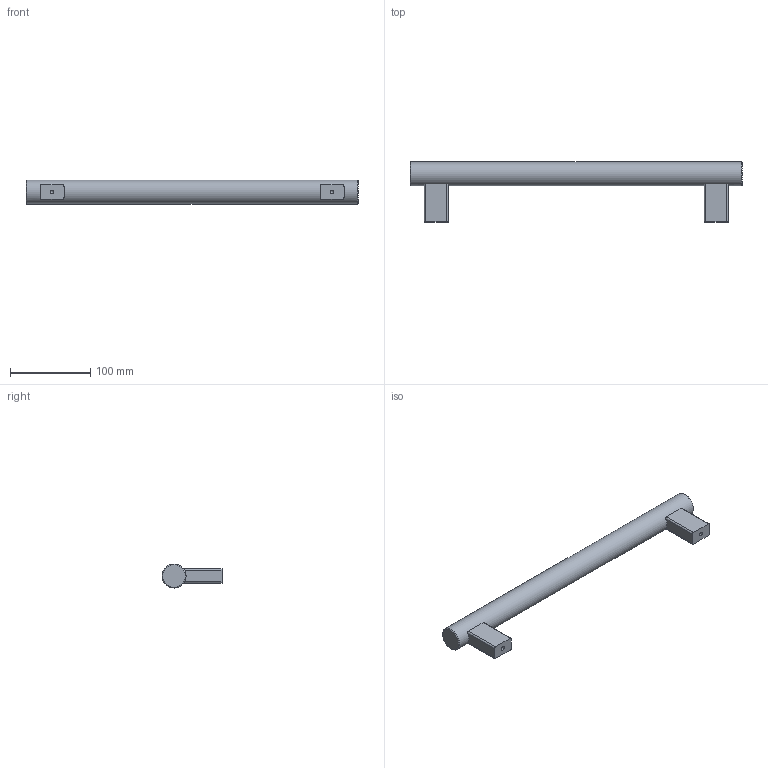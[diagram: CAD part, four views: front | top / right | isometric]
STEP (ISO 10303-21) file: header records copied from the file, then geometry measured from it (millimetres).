
FILE_DESCRIPTION( ( 'STEP AP203' ), '1' );
FILE_NAME( 'C:/Temp/Ganter_Step_05_03_2020/data/1_2/gn_666/Tubular handle GN 666-30-M6-350-NG.stp', '2020-03-05T10:18:19', ( 'License CC BY-ND 4.0' ), ( 'CADENAS' ), ' ', 'PARTsolutions', ' ' );
FILE_SCHEMA( ( 'CONFIG_CONTROL_DESIGN' ) );
Length unit declared in the file: millimetre
Products named in the file (1): _Tubular handle GN 666-30-M6-350-NG
Bounding box: 415 x 75 x 30 mm (x, y, z)
Volume: 341994.5 mm3; surface area: 49525.1 mm2
Topology: 1 solids, 1 shells, 27 faces, 65 edges, 42 vertices
Faces by surface type: plane 12, cylinder 11, cone 4
Full cylindrical faces by diameter (mm): 4.917 x2, 30 x1
Entity records: 882 total; most frequent: CARTESIAN_POINT 238, DIRECTION 124, ORIENTED_EDGE 112, EDGE_CURVE 56, AXIS2_PLACEMENT_3D 48, VERTEX_POINT 42, EDGE_LOOP 36, FACE_OUTER_BOUND 30
